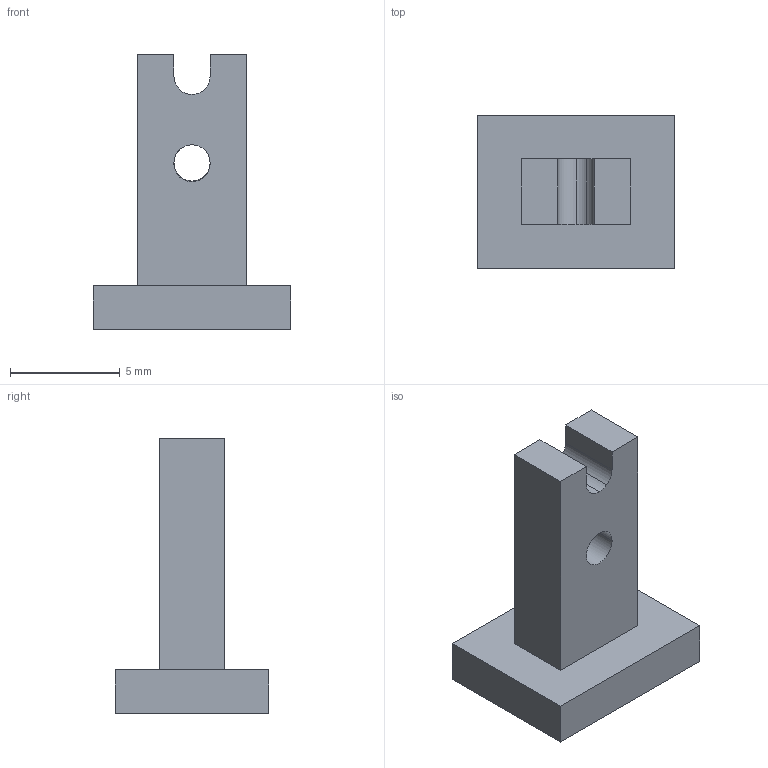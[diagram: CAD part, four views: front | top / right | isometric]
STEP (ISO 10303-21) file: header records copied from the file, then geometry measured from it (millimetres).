
FILE_DESCRIPTION(('Open CASCADE Model'),'2;1');
FILE_NAME('Open CASCADE Shape Model','2026-09-15T14:55:53',('Author'),( 'Open CASCADE'),'Open CASCADE STEP processor 7.7','Open CASCADE 7.7' ,'Unknown');
FILE_SCHEMA(('AUTOMOTIVE_DESIGN { 1 0 10303 214 1 1 1 1 }'));
Length unit declared in the file: millimetre
Products named in the file (1): COMPOUND
Bounding box: 9 x 7 x 12.55 mm (x, y, z)
Volume: 269.6 mm3; surface area: 373.5 mm2
Topology: 1 solids, 1 shells, 23 faces, 59 edges, 39 vertices
Faces by surface type: plane 14, cylinder 9
Entity records: 1594 total; most frequent: CARTESIAN_POINT 391, DIRECTION 224, LINE 122, VECTOR 122, ORIENTED_EDGE 118, PCURVE 118, DEFINITIONAL_REPRESENTATION 118, EDGE_CURVE 59
